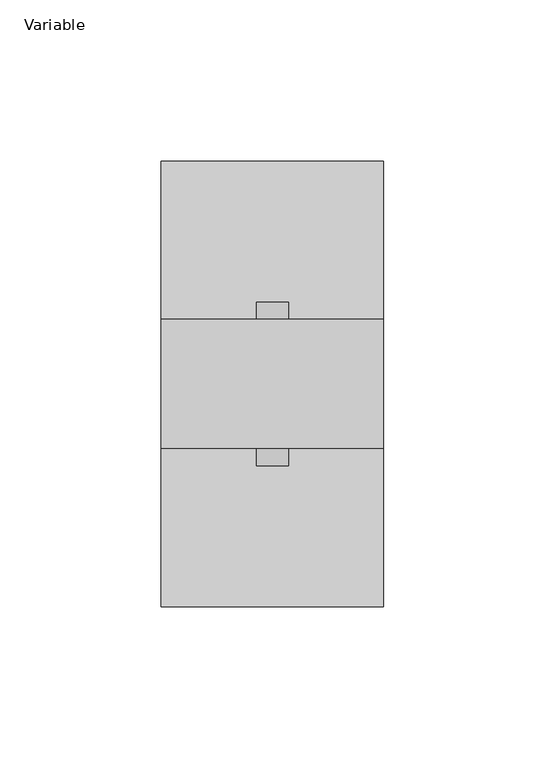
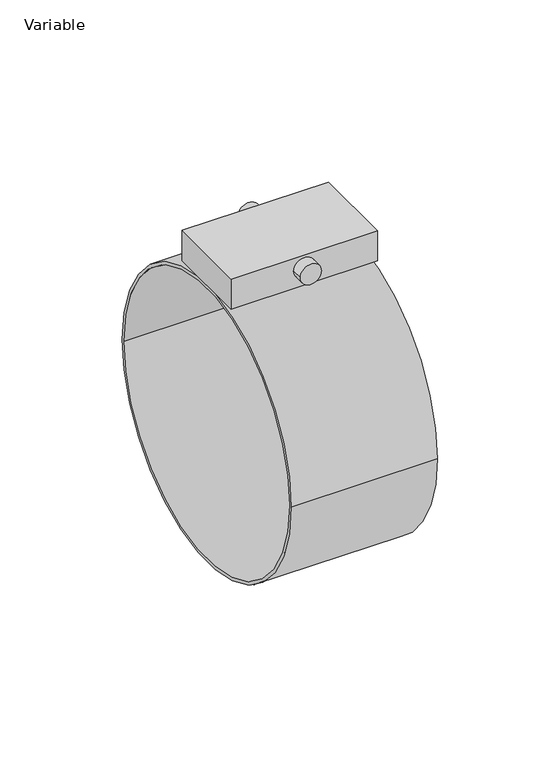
"""IFC4 building model written with IfcOpenShell, lengths in millimetres: pipe fitting geometry, AliaxisFR_Friaphon_AdaptorFriaphonCastiron_FR : Variable."""

from ifc_helpers import new_model, si_unit, point, frame, origin, origin_2d, place, context, project, spatial, circle_curve, trimmed, segment, composite_curve, outline, extrude, source, transform, mapped, element, save
from ifc_brep_helpers import plane_surface, cylinder_surface, advanced_brep


def variable_c7a8ed9b(model_context):
    return source(origin(), model_context, "Body", "SolidModel", [
        advanced_brep(
        [(69.0, -20.0, 84.0), (69.0, 20.0, 84.0), (0.0, 20.0, 84.0), (0.0, -20.0, 84.0), (69.0, -20.0, 69.0), (0.0, -20.0, 69.0), (0.0, 20.0, 69.0), (69.0, 20.0, 69.0), (29.5, 20.0, 77.6339712), (39.5, 20.0, 77.6339712), (39.5, -20.0, 77.6339712), (29.5, -20.0, 77.6339712), (29.5, -25.3857929, 77.6339712), (39.5, -25.3857929, 77.6339712), (29.5, 25.3857929, 77.6339712), (39.5, 25.3857929, 77.6339712)],
        [
            (0, 1),
            (1, 2),
            (2, 3),
            (3, 0),
            (4, 5),
            (5, 6),
            (6, 7),
            (7, 4),
            (0, 4),
            (7, 1),
            (6, 2),
            (8, 9, circle_curve(frame((34.5, 20.0, 77.6339712), z_axis=(0.0, -1.0, 0.0), x_axis=(1.0, 0.0, 0.0)), 5.0)),
            (9, 8, circle_curve(frame((34.5, 20.0, 77.6339712), z_axis=(0.0, -1.0, 0.0), x_axis=(1.0, 0.0, 0.0)), 5.0)),
            (5, 3),
            (10, 11, circle_curve(frame((34.5, -20.0, 77.6339712), z_axis=(0.0, 1.0, 0.0), x_axis=(1.0, 0.0, 0.0)), 5.0)),
            (11, 10, circle_curve(frame((34.5, -20.0, 77.6339712), z_axis=(0.0, 1.0, 0.0), x_axis=(1.0, 0.0, 0.0)), 5.0)),
            (12, 13, circle_curve(frame((34.5, -25.3857929, 77.6339712), z_axis=(0.0, -1.0, 0.0), x_axis=(1.0, 0.0, 0.0)), 5.0)),
            (13, 12, circle_curve(frame((34.5, -25.3857929, 77.6339712), z_axis=(0.0, -1.0, 0.0), x_axis=(1.0, 0.0, 0.0)), 5.0)),
            (14, 15, circle_curve(frame((34.5, 25.3857929, 77.6339712), z_axis=(0.0, 1.0, 0.0), x_axis=(1.0, 0.0, 0.0)), 5.0)),
            (15, 14, circle_curve(frame((34.5, 25.3857929, 77.6339712), z_axis=(0.0, 1.0, 0.0), x_axis=(1.0, 0.0, 0.0)), 5.0)),
            (12, 11),
            (10, 13),
            (15, 9),
            (8, 14),
        ],
        [
            plane_surface(frame((69.0, -20.0, 84.0), z_axis=(0.0, 0.0, 1.0), x_axis=(0.0, 1.0, 0.0))),
            plane_surface(frame((69.0, -20.0, 69.0), z_axis=(0.0, 0.0, -1.0), x_axis=(0.0, -1.0, 0.0))),
            plane_surface(frame((69.0, -20.0, 84.0), z_axis=(1.0, 0.0, 0.0), x_axis=(0.0, 0.0, -1.0))),
            plane_surface(frame((69.0, 20.0, 84.0), z_axis=(0.0, 1.0, 0.0), x_axis=(0.0, 0.0, -1.0))),
            plane_surface(frame((0.0, 20.0, 84.0), z_axis=(-1.0, 0.0, 0.0), x_axis=(0.0, 0.0, -1.0))),
            plane_surface(frame((0.0, -20.0, 84.0), z_axis=(0.0, -1.0, 0.0), x_axis=(0.0, 0.0, -1.0))),
            plane_surface(frame((39.5, -25.3857929, 77.6339712), z_axis=(0.0, -1.0, 0.0), x_axis=(0.0, 0.0, 1.0))),
            plane_surface(frame((39.5, 25.3857929, 77.6339712), z_axis=(0.0, 1.0, 0.0), x_axis=(0.0, 0.0, -1.0))),
            cylinder_surface(frame((34.5, 25.3857929, 77.6339712), z_axis=(0.0, -1.0, 0.0), x_axis=(1.0, 0.0, 0.0)), 5.0),
        ],
        [
            (0, [[1, 2, 3, 4]]),
            (1, [[5, 6, 7, 8]]),
            (2, [[-1, 9, -8, 10]]),
            (3, [[-2, -10, -7, 11], [12, 13]]),
            (4, [[-3, -11, -6, 14]]),
            (5, [[-4, -14, -5, -9], [15, 16]]),
            (6, [[17, 18]]),
            (7, [[19, 20]]),
            (8, [[-17, 21, -15, 22]]),
            (8, [[-20, 23, -12, 24]]),
            (8, [[-18, -22, -16, -21]]),
            (8, [[-19, -24, -13, -23]]),
        ],
    ),
        extrude(outline(composite_curve([segment(trimmed(circle_curve(origin_2d(), 69.0), [point((-69.0, 0.0))], [point((69.0, 0.0))], False, "CARTESIAN"), True, "CONTINUOUS"), segment(trimmed(circle_curve(origin_2d(), 69.0), [point((69.0, 0.0))], [point((-69.0, 0.0))], False, "CARTESIAN"), True, "CONTINUOUS")], self_intersect=False), holes=[composite_curve([segment(trimmed(circle_curve(origin_2d(), 67.5), [point((-67.5, 0.0))], [point((67.5, 0.0))], True, "CARTESIAN"), True, "CONTINUOUS"), segment(trimmed(circle_curve(origin_2d(), 67.5), [point((67.5, 0.0))], [point((-67.5, 0.0))], True, "CARTESIAN"), True, "CONTINUOUS")], self_intersect=False)]), frame((0.0, 0.0, 0.0), z_axis=(1.0, 0.0, 0.0), x_axis=(0.0, 1.0, 0.0)), (0.0, 0.0, 1.0), 69.0),
    ])


if __name__ == "__main__":
    model = new_model("IFC4")
    model_context = context("Model", 3, world=origin())
    ifc_project = project(units=[si_unit("LENGTHUNIT", "METRE", prefix="MILLI")], contexts=[model_context])
    site = spatial("IfcSite", under=ifc_project)
    building = spatial("IfcBuilding", under=site)
    placement = place(None, origin())
    variable_shape = variable_c7a8ed9b(model_context)
    element("IfcPipeFitting", 1, ObjectType="AliaxisFR_Friaphon_AdaptorFriaphonCastiron_FR : Variable", at=placement, inside=building, context=model_context, shape_type="MappedRepresentation", body=[
        mapped(variable_shape, transform((0.0, 0.0, 0.0), x_axis=(1.0, 0.0, 0.0), y_axis=(0.0, 1.0, 0.0), z_axis=(0.0, 0.0, 1.0))),
    ])
    save(model, "model.ifc")
